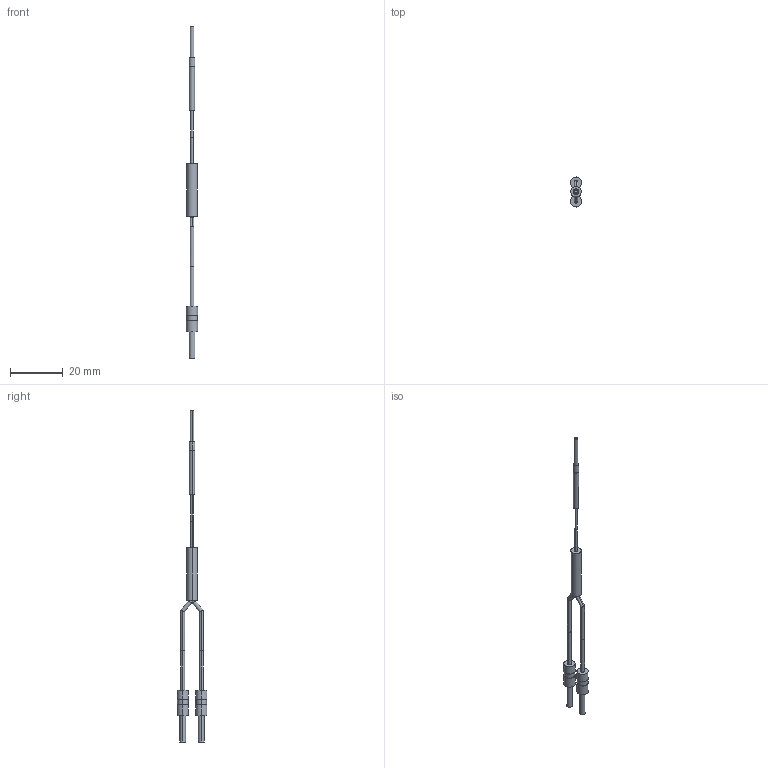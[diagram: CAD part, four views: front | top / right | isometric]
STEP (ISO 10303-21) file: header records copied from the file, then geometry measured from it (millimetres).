
FILE_DESCRIPTION (( 'STEP AP203' ), '1' );
FILE_NAME ('FD-P2.STEP', '2005-09-04T10:11:15', ( '川島良英' ), ( ' ' ), 'SwSTEP 2.0', 'SolidWorks 2004251', '' );
FILE_SCHEMA (( 'CONFIG_CONTROL_DESIGN' ));
Length unit declared in the file: millimetre
Products named in the file (1): FD-P2
Bounding box: 4.33 x 11.33 x 125.5 mm (x, y, z)
Volume: 829.2 mm3; surface area: 1338.8 mm2
Topology: 5 solids, 5 shells, 70 faces, 134 edges, 88 vertices
Faces by surface type: cylinder 46, plane 24
Entity records: 1871 total; most frequent: DIRECTION 340, CARTESIAN_POINT 329, ORIENTED_EDGE 268, AXIS2_PLACEMENT_3D 147, EDGE_CURVE 134, VERTEX_POINT 88, EDGE_LOOP 84, CIRCLE 76
